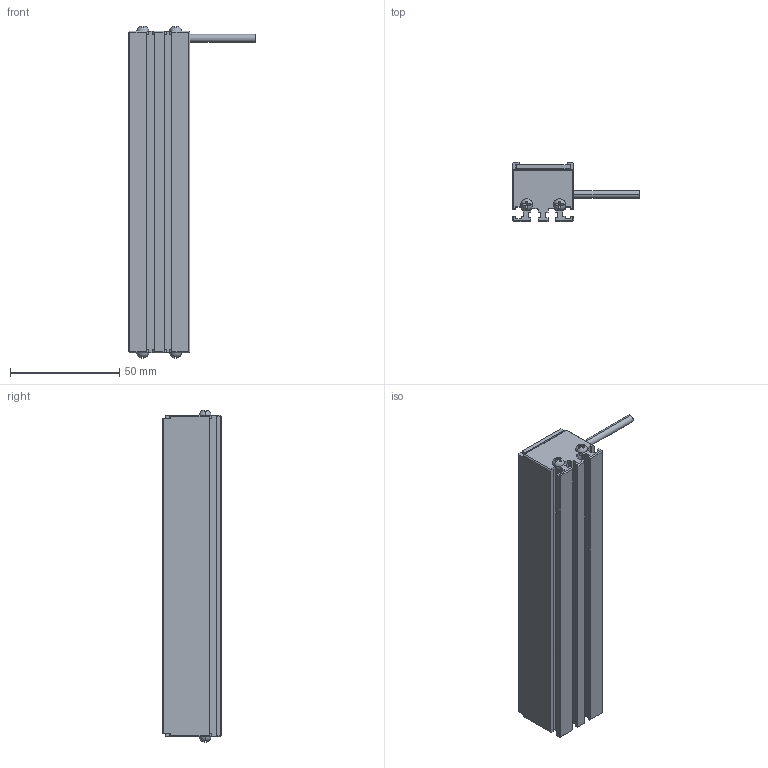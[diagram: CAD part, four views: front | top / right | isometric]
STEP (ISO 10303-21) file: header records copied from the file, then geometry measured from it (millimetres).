
FILE_DESCRIPTION((''),'2;1');
FILE_NAME('MV-LLDS-147-28_ASM','2020-12-29T',('Administrator'),(''),'PRO/ENGINEER BY PARAMETRIC TECHNOLOGY CORPORATION, 2010100','PRO/ENGINEER BY PARAMETRIC TECHNOLOGY CORPORATION, 2010100','');
FILE_SCHEMA(('CONFIG_CONTROL_DESIGN'));
Length unit declared in the file: millimetre
Products named in the file (3): BL-4_5_; M3-5_3; MV-LLDS-147-28_ASM
Assembly tree (5 placements, depth 2):
  MV-LLDS-147-28_ASM
    BL-4_5_
    M3-5_3  x4
Bounding box: 58 x 27 x 151.68 mm (x, y, z)
Volume: 92298.3 mm3; surface area: 36348 mm2
Topology: 5 solids, 13 shells, 303 faces, 802 edges, 516 vertices
Faces by surface type: plane 185, cylinder 70, cone 16, bspline 16, torus 8, sphere 8
Entity records: 6737 total; most frequent: CARTESIAN_POINT 1451, ORIENTED_EDGE 1074, DIRECTION 1068, EDGE_CURVE 547, VECTOR 396, LINE 396, VERTEX_POINT 357, AXIS2_PLACEMENT_3D 336
